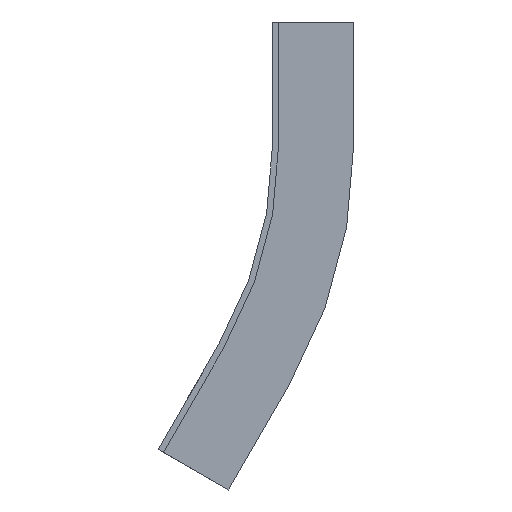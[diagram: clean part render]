
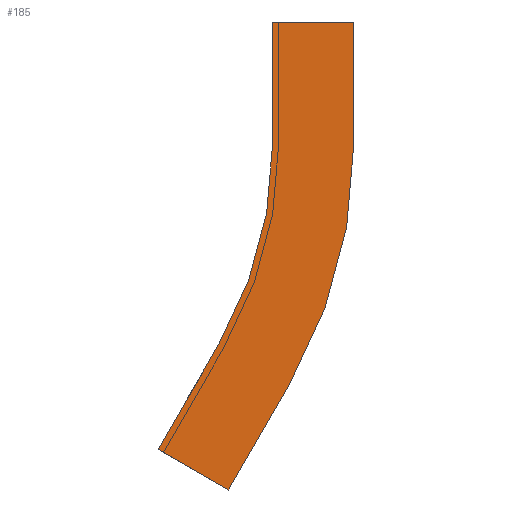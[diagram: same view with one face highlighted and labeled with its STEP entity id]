
A CAD part, left-side view. The second image highlights one B-rep face of the part: STEP entity #185.
In plain terms, the highlighted planar face has unit normal (-1, 0, 0).
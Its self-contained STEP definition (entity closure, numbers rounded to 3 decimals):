
#12 = DIRECTION ( 'NONE',  ( 0., 0., -1. ) ) ;
#16 = VECTOR ( 'NONE', #291, 1000. ) ;
#36 = FACE_OUTER_BOUND ( 'NONE', #746, .T. ) ;
#54 = DIRECTION ( 'NONE',  ( -1., 0., 0. ) ) ;
#56 = LINE ( 'NONE', #774, #663 ) ;
#93 = EDGE_CURVE ( 'NONE', #229, #618, #351, .T. ) ;
#145 = EDGE_CURVE ( 'NONE', #806, #209, #838, .T. ) ;
#160 = CARTESIAN_POINT ( 'NONE',  ( -253.5, 0., -30. ) ) ;
#181 = ORIENTED_EDGE ( 'NONE', *, *, #725, .F. ) ;
#185 = ADVANCED_FACE ( 'NONE', ( #36 ), #380, .F. ) ;
#189 = CARTESIAN_POINT ( 'NONE',  ( -253.5, 13.196, -79.25 ) ) ;
#190 = EDGE_CURVE ( 'NONE', #209, #229, #364, .T. ) ;
#204 = ORIENTED_EDGE ( 'NONE', *, *, #311, .F. ) ;
#209 = VERTEX_POINT ( 'NONE', #297 ) ;
#227 = EDGE_CURVE ( 'NONE', #618, #701, #647, .T. ) ;
#229 = VERTEX_POINT ( 'NONE', #368 ) ;
#232 = DIRECTION ( 'NONE',  ( 0., 0., 1. ) ) ;
#235 = CARTESIAN_POINT ( 'NONE',  ( -253.5, 98.5, -30. ) ) ;
#249 = VECTOR ( 'NONE', #803, 1000. ) ;
#264 = ORIENTED_EDGE ( 'NONE', *, *, #780, .F. ) ;
#276 = ORIENTED_EDGE ( 'NONE', *, *, #227, .F. ) ;
#291 = DIRECTION ( 'NONE',  ( 0., -1., 0. ) ) ;
#297 = CARTESIAN_POINT ( 'NONE',  ( -253.5, 0., 0. ) ) ;
#304 = CARTESIAN_POINT ( 'NONE',  ( -253.5, 0., 0. ) ) ;
#305 = DIRECTION ( 'NONE',  ( 0., 0., 1. ) ) ;
#311 = EDGE_CURVE ( 'NONE', #849, #366, #775, .T. ) ;
#322 = DIRECTION ( 'NONE',  ( 0., 0.866, 0.5 ) ) ;
#351 = LINE ( 'NONE', #598, #829 ) ;
#364 = LINE ( 'NONE', #610, #16 ) ;
#366 = VERTEX_POINT ( 'NONE', #455 ) ;
#368 = CARTESIAN_POINT ( 'NONE',  ( -253.5, -20., 0. ) ) ;
#380 = PLANE ( 'NONE',  #474 ) ;
#439 = DIRECTION ( 'NONE',  ( 0., 0., -1. ) ) ;
#443 = CARTESIAN_POINT ( 'NONE',  ( -253.5, -4.124, -89.25 ) ) ;
#455 = CARTESIAN_POINT ( 'NONE',  ( -253.5, 28.196, -105.231 ) ) ;
#463 = CARTESIAN_POINT ( 'NONE',  ( -253.5, 10.876, -115.231 ) ) ;
#474 = AXIS2_PLACEMENT_3D ( 'NONE', #235, #766, #439 ) ;
#480 = EDGE_CURVE ( 'NONE', #366, #489, #56, .T. ) ;
#489 = VERTEX_POINT ( 'NONE', #189 ) ;
#501 = CARTESIAN_POINT ( 'NONE',  ( -253.5, -20., -30. ) ) ;
#523 = CARTESIAN_POINT ( 'NONE',  ( -253.5, 98.5, -30. ) ) ;
#526 = CARTESIAN_POINT ( 'NONE',  ( -253.5, 10.876, -115.231 ) ) ;
#531 = LINE ( 'NONE', #526, #249 ) ;
#546 = CIRCLE ( 'NONE', #614, 98.5 ) ;
#589 = VECTOR ( 'NONE', #232, 1000. ) ;
#598 = CARTESIAN_POINT ( 'NONE',  ( -253.5, -20., -30. ) ) ;
#605 = AXIS2_PLACEMENT_3D ( 'NONE', #771, #622, #305 ) ;
#610 = CARTESIAN_POINT ( 'NONE',  ( -253.5, -20., 0. ) ) ;
#614 = AXIS2_PLACEMENT_3D ( 'NONE', #523, #54, #782 ) ;
#618 = VERTEX_POINT ( 'NONE', #501 ) ;
#622 = DIRECTION ( 'NONE',  ( 1., 0., 0. ) ) ;
#647 = CIRCLE ( 'NONE', #605, 118.5 ) ;
#649 = ORIENTED_EDGE ( 'NONE', *, *, #93, .F. ) ;
#663 = VECTOR ( 'NONE', #703, 1000. ) ;
#664 = ORIENTED_EDGE ( 'NONE', *, *, #145, .F. ) ;
#694 = ORIENTED_EDGE ( 'NONE', *, *, #190, .F. ) ;
#701 = VERTEX_POINT ( 'NONE', #443 ) ;
#703 = DIRECTION ( 'NONE',  ( 0., -0.5, 0.866 ) ) ;
#725 = EDGE_CURVE ( 'NONE', #489, #806, #546, .T. ) ;
#729 = ORIENTED_EDGE ( 'NONE', *, *, #480, .F. ) ;
#746 = EDGE_LOOP ( 'NONE', ( #694, #664, #181, #729, #204, #264, #276, #649 ) ) ;
#765 = CARTESIAN_POINT ( 'NONE',  ( -253.5, 28.196, -105.231 ) ) ;
#766 = DIRECTION ( 'NONE',  ( 1., 0., 0. ) ) ;
#771 = CARTESIAN_POINT ( 'NONE',  ( -253.5, 98.5, -30. ) ) ;
#774 = CARTESIAN_POINT ( 'NONE',  ( -253.5, 13.196, -79.25 ) ) ;
#775 = LINE ( 'NONE', #765, #828 ) ;
#780 = EDGE_CURVE ( 'NONE', #701, #849, #531, .T. ) ;
#782 = DIRECTION ( 'NONE',  ( 0., 0., -1. ) ) ;
#803 = DIRECTION ( 'NONE',  ( 0., 0.5, -0.866 ) ) ;
#806 = VERTEX_POINT ( 'NONE', #160 ) ;
#828 = VECTOR ( 'NONE', #322, 1000. ) ;
#829 = VECTOR ( 'NONE', #12, 1000. ) ;
#838 = LINE ( 'NONE', #304, #589 ) ;
#849 = VERTEX_POINT ( 'NONE', #463 ) ;
